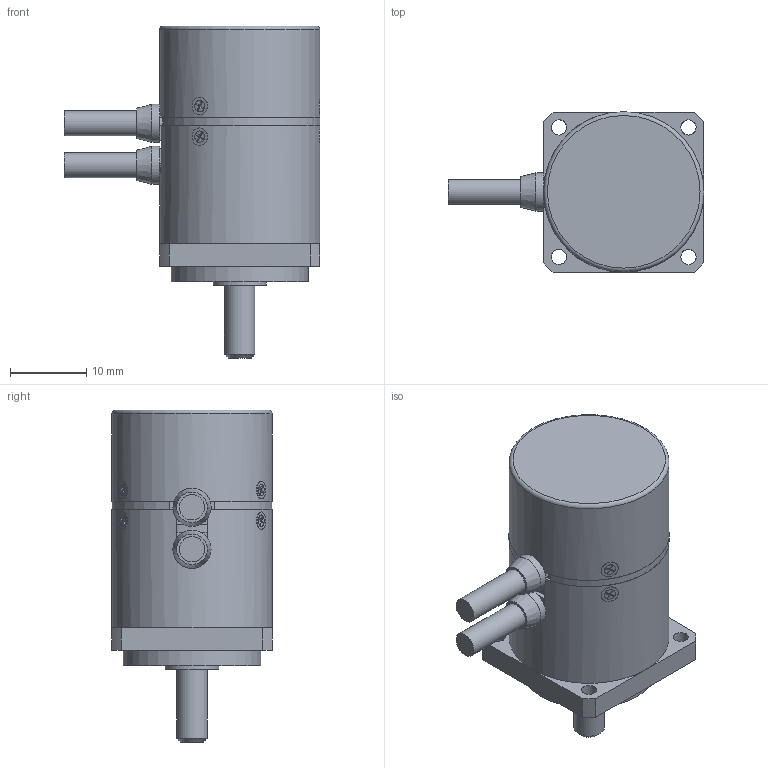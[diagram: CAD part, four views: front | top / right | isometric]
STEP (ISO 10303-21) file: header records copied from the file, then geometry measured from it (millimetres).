
FILE_DESCRIPTION(('STEP AP214'),'1');
FILE_NAME('MDS-2006.stp','2017-10-10T07:02:07',(' '),(' '),'Spatial InterOp 3D',' ',' ');
FILE_SCHEMA(('automotive_design'));
Length unit declared in the file: millimetre
Products named in the file (11): ケーブル; タッピングネジ M1.4x2.2; サラコネジ M1.4x2.5; ｱﾝｷﾞｭﾗﾍﾞｱﾘﾝｸﾞ MTA04-11; ｱﾝｷﾞｭﾗﾍﾞｱﾘﾝｸﾞ MTA05-13; ブッシュ; カバー_S; ベース; シャフト_S2006; ケース_2006
Assembly tree (16 placements, depth 2):
  (unnamed)
    ケーブル  x2
    タッピングネジ M1.4x2.2  x3
    サラコネジ M1.4x2.5  x3
    ｱﾝｷﾞｭﾗﾍﾞｱﾘﾝｸﾞ MTA04-11
    ｱﾝｷﾞｭﾗﾍﾞｱﾘﾝｸﾞ MTA05-13
    ブッシュ  x2
    カバー_S
    ベース
    シャフト_S2006
    ケース_2006
Bounding box: 33.5 x 21 x 43.5 mm (x, y, z)
Volume: 5216 mm3; surface area: 10085.6 mm2
Topology: 17 solids, 18 shells, 349 faces, 806 edges, 521 vertices
Faces by surface type: plane 200, cylinder 110, cone 29, torus 10
Full cylindrical faces by diameter (mm): 0.75 x6, 1.1 x6, 1.4 x12, 1.5 x6, 2 x4, 2.3 x6, 3.3 x4, 3.4 x1, 4 x4, 4.2 x1, 5 x4, 6.2 x4, 7 x1, 7.2 x3, 7.3 x1, 7.6 x1, 8.1 x1, 8.6 x1, 9.5 x5, 9.9 x1, 11 x2, 11.2 x1, 11.3 x3, 11.5 x1, 13 x2, 16 x1, 18 x1, 18.5 x1, 19.4 x1, 19.5 x1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
Entity records: 9152 total; most frequent: CARTESIAN_POINT 1689, DIRECTION 1124, ORIENTED_EDGE 872, AXIS2_PLACEMENT_3D 458, EDGE_CURVE 436, EDGE_LOOP 416, VERTEX_POINT 341, FACE_OUTER_BOUND 334
